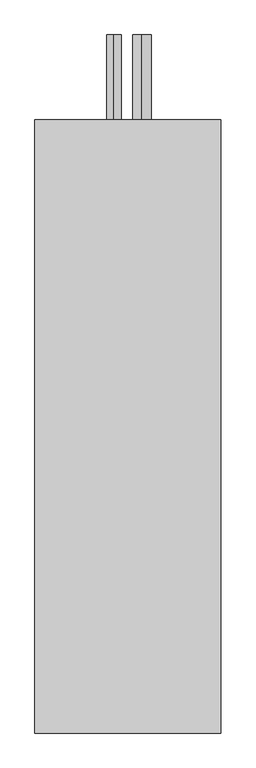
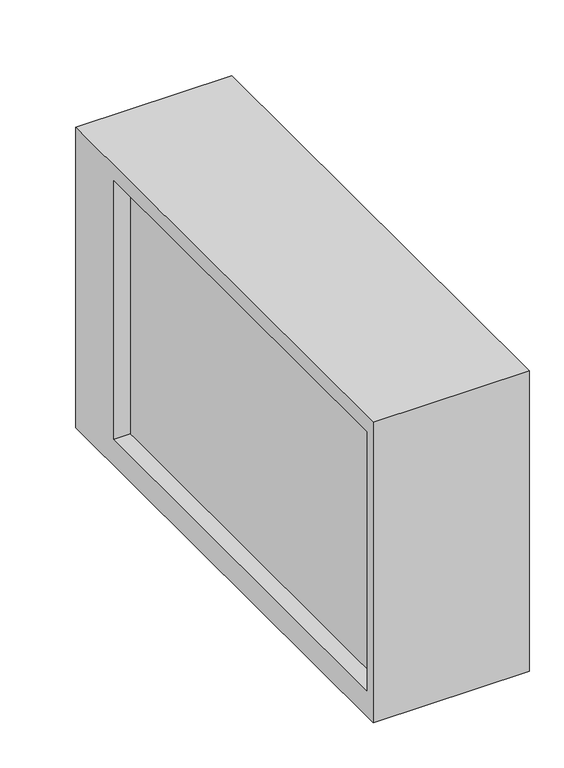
"""IFC4 building model written with IfcOpenShell, lengths in millimetres: proxy geometry, СВ_ВоздухоохладительФреоновый_КанальныйПрямоугольный_200-1000_SPC-F : SPC-F-800x500-L."""

from ifc_helpers import new_model, si_unit, point, frame, frame_2d, origin, place, context, project, spatial, polyline, circle_curve, trimmed, segment, composite_curve, outline, extrude, source, transform, mapped, element, save


def mechanical_equipment_e1696ac3(model_context):
    return source(origin(), model_context, "Body", "SweptSolid", [
        extrude(outline(polyline([(-420.0, -300.0), (-420.0, 280.0), (520.0, 280.0), (520.0, -300.0), (-420.0, -300.0)]), holes=[polyline([(-400.0, 250.0), (-400.0, -250.0), (400.0, -250.0), (400.0, 250.0), (-400.0, 250.0)])]), frame((-142.5, 0.0, 0.0), z_axis=(1.0, 0.0, 0.0), x_axis=(0.0, 1.0, 0.0)), (0.0, 0.0, 1.0), 285.0),
        extrude(outline(composite_curve([segment(trimmed(circle_curve(frame_2d((-200.0, 21.5)), 14.3), [point((-214.3, 21.5))], [point((-185.7, 21.5))], False, "CARTESIAN"), True, "CONTINUOUS"), segment(trimmed(circle_curve(frame_2d((-200.0, 21.5)), 14.3), [point((-185.7, 21.5))], [point((-214.3, 21.5))], False, "CARTESIAN"), True, "CONTINUOUS")], self_intersect=False)), frame((0.0, 520.0, 0.0), z_axis=(0.0, 1.0, 0.0), x_axis=(0.0, 0.0, 1.0)), (0.0, 0.0, 1.0), 130.0),
        extrude(outline(composite_curve([segment(trimmed(circle_curve(frame_2d((90.0, -21.5)), 11.1), [point((78.9, -21.5))], [point((101.1, -21.5))], False, "CARTESIAN"), True, "CONTINUOUS"), segment(trimmed(circle_curve(frame_2d((90.0, -21.5)), 11.1), [point((101.1, -21.5))], [point((78.9, -21.5))], False, "CARTESIAN"), True, "CONTINUOUS")], self_intersect=False)), frame((0.0, 520.0, 0.0), z_axis=(0.0, 1.0, 0.0), x_axis=(0.0, 0.0, 1.0)), (0.0, 0.0, 1.0), 130.0),
        extrude(outline(composite_curve([segment(trimmed(circle_curve(frame_2d((0.0, 480.0)), 11.0), [point((-11.0, 480.0))], [point((11.0, 480.0))], False, "CARTESIAN"), True, "CONTINUOUS"), segment(trimmed(circle_curve(frame_2d((0.0, 480.0)), 11.0), [point((11.0, 480.0))], [point((-11.0, 480.0))], False, "CARTESIAN"), True, "CONTINUOUS")], self_intersect=False)), frame((0.0, 0.0, -320.0), z_axis=(0.0, 0.0, 1.0), x_axis=(1.0, 0.0, 0.0)), (0.0, 0.0, 1.0), 20.0),
        extrude(outline(polyline([(112.5, 400.0), (112.5, -400.0), (-112.5, -400.0), (-112.5, 400.0), (112.5, 400.0)])), frame((0.0, 0.0, -250.0), z_axis=(0.0, 0.0, 1.0), x_axis=(1.0, 0.0, 0.0)), (0.0, 0.0, 1.0), 500.0),
    ])


if __name__ == "__main__":
    model = new_model("IFC4")
    model_context = context("Model", 3, world=origin())
    ifc_project = project(units=[si_unit("LENGTHUNIT", "METRE", prefix="MILLI")], contexts=[model_context])
    site = spatial("IfcSite", under=ifc_project)
    building = spatial("IfcBuilding", under=site)
    placement = place(None, origin())
    mechanical_equipment_shape = mechanical_equipment_e1696ac3(model_context)
    element("IfcBuildingElementProxy", 1, Name="СВ_ВоздухоохладительФреоновый_КанальныйПрямоугольный_200-1000_SPC-F : SPC-F-800x500-L", ObjectType="СВ_ВоздухоохладительФреоновый_КанальныйПрямоугольный_200-1000_SPC-F : SPC-F-800x500-L", at=placement, inside=building, context=model_context, shape_type="MappedRepresentation", body=[
        mapped(mechanical_equipment_shape, transform((0.0, 0.0, 0.0), x_axis=(1.0, 0.0, 0.0), y_axis=(0.0, 1.0, 0.0), z_axis=(0.0, 0.0, 1.0))),
    ])
    save(model, "model.ifc")
